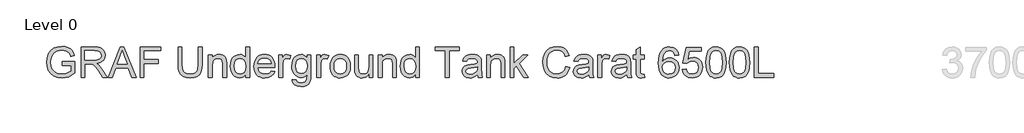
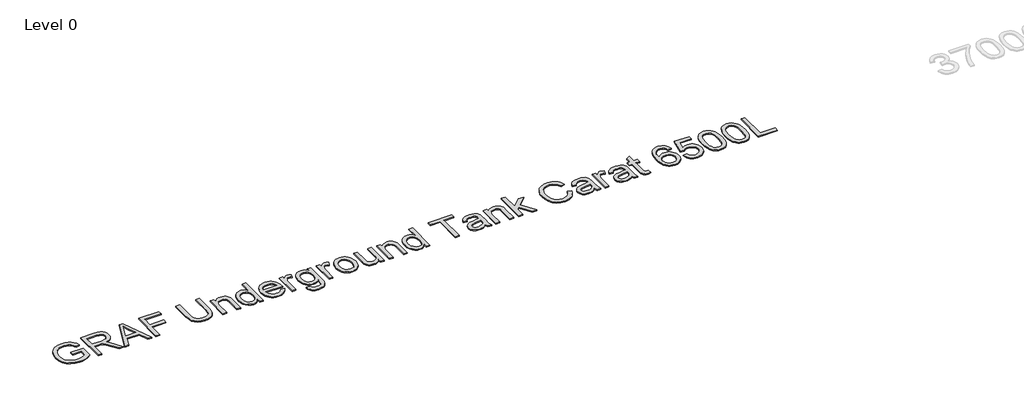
# One storey, part 13 of 19: 1 proxy.
"""IFC4 building model written with IfcOpenShell, lengths in millimetres."""

from ifc_helpers import new_model, si_unit, origin, origin_with_axes, place, context, project, spatial, polyline, outline, extrude, element, save

model = new_model("IFC4")

# Units and contexts
model_context = context("Model", 3, world=origin())
ifc_project = project(units=[si_unit("LENGTHUNIT", "METRE", prefix="MILLI")], contexts=[model_context])

# Site, building, storey
site = spatial("IfcSite", under=ifc_project)
building = spatial("IfcBuilding", under=site)
storey = spatial("IfcBuildingStorey", under=building, Name="Level 0", Elevation=0.0)

# Proxy
placement = place(None, origin())
element("IfcBuildingElementProxy", 1, Name="300mm Arial", ObjectType="300mm Arial", at=placement, inside=storey, context=model_context, shape_type="SweptSolid", body=[
    extrude(outline(polyline([(-14980.9940387, -2583.2545597), (-14980.9940387, -2545.5834434), (-14858.5629107, -2545.5834434), (-14858.5629107, -2658.2289103), (-14888.3153671, -2678.9222726), (-14919.0059225, -2693.7663111), (-14950.5610007, -2702.7058436), (-14982.9070251, -2705.6856877), (-15025.1674693, -2700.949207), (-15063.3628175, -2686.739765), (-15095.0926395, -2663.5540022), (-15117.9565055, -2631.8885595), (-15131.7796715, -2593.9047435), (-15136.3873935, -2551.7638609), (-15131.7980656, -2509.3194757), (-15118.0300819, -2469.8365406), (-15095.6536596, -2436.717964), (-15065.2390156, -2413.3666543), (-15028.1932987, -2399.5158972), (-14985.9236575, -2394.8989782), (-14954.8928112, -2397.5753197), (-14926.9889618, -2405.6043443), (-14903.4904994, -2418.4066377), (-14885.6758138, -2435.4027859), (-14872.4964413, -2457.4113262), (-14862.9039183, -2485.2507962), (-14897.6319786, -2495.0364573), (-14905.3850917, -2475.1800266), (-14914.8120678, -2460.1980323), (-14927.2832674, -2448.9040551), (-14944.169051, -2440.1116754), (-14964.3013932, -2434.4554897), (-14986.5122687, -2432.5700945), (-15012.5123287, -2434.6026425), (-15034.7415982, -2440.7002866), (-15053.1173039, -2450.0996716), (-15067.5566722, -2462.0374423), (-15086.9440533, -2491.0633317), (-15095.7732212, -2519.50061), (-15098.7162772, -2550.2187566), (-15095.175413, -2586.2436009), (-15084.5528204, -2615.8856927), (-15067.1703961, -2638.9334997), (-15043.3500369, -2655.1754898), (-15015.4737787, -2664.804801), (-14985.9236575, -2668.0145714), (-14959.831627, -2665.5957473), (-14934.3833899, -2658.3392749), (-14912.2828791, -2648.3420817), (-14896.234027, -2637.701095), (-14896.234027, -2583.2545597), (-14980.9940387, -2583.2545597)])), origin_with_axes(), (0.0, 0.0, 1.0), 10.0),
    extrude(outline(polyline([(-14797.3473467, -2700.9767982), (-14797.3473467, -2399.6078677), (-14667.4850024, -2399.6078677), (-14632.5821982, -2401.6404158), (-14607.1891434, -2407.7380598), (-14588.6294968, -2418.9952489), (-14574.2269167, -2436.5064318), (-14564.9838815, -2458.2206666), (-14561.9028698, -2482.087011), (-14567.0072325, -2511.7750881), (-14582.3203206, -2536.3863935), (-14593.9200997, -2546.4157764), (-14608.3019865, -2554.4310054), (-14645.4120827, -2564.4190016), (-14624.0013506, -2580.532233), (-14593.467145, -2619.3069952), (-14543.2144645, -2700.9767982), (-14586.9924219, -2700.9767982), (-14626.2086426, -2638.5104354), (-14654.5355562, -2597.1604991), (-14674.4379722, -2577.6259652), (-14692.3538253, -2570.4522663), (-14714.2060158, -2569.1278911), (-14759.6762304, -2569.1278911), (-14759.6762304, -2700.9767982), (-14797.3473467, -2700.9767982)]), holes=[polyline([(-14759.6762304, -2531.4567748), (-14675.3576771, -2531.4567748), (-14651.1418448, -2530.1232026), (-14632.3522719, -2526.1224859), (-14618.2072092, -2519.1879103), (-14607.9249074, -2509.0527613), (-14601.6617165, -2496.7930938), (-14599.5739861, -2483.4849626), (-14603.5563087, -2465.109257), (-14615.5032765, -2450.3020067), (-14636.058683, -2440.5347397), (-14665.8663217, -2437.278984), (-14759.6762304, -2437.278984), (-14759.6762304, -2531.4567748)])]), origin_with_axes(), (0.0, 0.0, 1.0), 10.0),
    extrude(outline(polyline([(-14531.0743586, -2700.9767982), (-14410.7769462, -2399.6078677), (-14378.6976362, -2399.6078677), (-14258.4002238, -2700.9767982), (-14298.2050557, -2700.9767982), (-14332.7123868, -2606.7990074), (-14456.835772, -2606.7990074), (-14491.2695268, -2700.9767982), (-14531.0743586, -2700.9767982)]), holes=[polyline([(-14443.003409, -2569.1278911), (-14346.4711735, -2569.1278911), (-14373.6208647, -2495.0364573), (-14394.7372912, -2437.278984), (-14413.499273, -2488.5617342), (-14443.003409, -2569.1278911)])]), origin_with_axes(), (0.0, 0.0, 1.0), 10.0),
    extrude(outline(polyline([(-14218.1539335, -2700.9767982), (-14218.1539335, -2399.6078677), (-14015.6716834, -2399.6078677), (-14015.6716834, -2437.278984), (-14180.4828172, -2437.278984), (-14180.4828172, -2526.7478853), (-14039.2161311, -2526.7478853), (-14039.2161311, -2564.4190016), (-14180.4828172, -2564.4190016), (-14180.4828172, -2700.9767982), (-14218.1539335, -2700.9767982)])), origin_with_axes(), (0.0, 0.0, 1.0), 10.0),
    extrude(outline(polyline([(-13648.3782994, -2399.6078677), (-13610.7071831, -2399.6078677), (-13610.7071831, -2573.4688986), (-13613.263963, -2614.1842385), (-13620.9343026, -2645.5369815), (-13635.2633063, -2669.7252227), (-13657.7960785, -2688.9470569), (-13688.5878015, -2701.50103), (-13727.6936576, -2705.6856877), (-13765.944188, -2702.043656), (-13796.5243789, -2691.1175607), (-13819.4434272, -2673.284481), (-13834.71053, -2648.9214959), (-13843.2913775, -2616.2443776), (-13846.15166, -2573.4688986), (-13846.15166, -2399.6078677), (-13808.4805437, -2399.6078677), (-13808.4805437, -2572.1445235), (-13806.6227396, -2605.9988641), (-13801.0493274, -2629.5709029), (-13790.9509666, -2645.8956665), (-13775.5183169, -2658.0081811), (-13755.3951718, -2665.5129738), (-13731.2253247, -2668.0145714), (-13692.9104149, -2663.0665586), (-13678.5676156, -2656.8815425), (-13667.4345868, -2648.2225201), (-13659.097461, -2636.045626), (-13653.1423712, -2619.3069952), (-13648.3782994, -2572.1445235), (-13648.3782994, -2399.6078677)])), origin_with_axes(), (0.0, 0.0, 1.0), 10.0),
    extrude(outline(polyline([(-13549.4916191, -2700.9767982), (-13549.4916191, -2479.6589899), (-13511.8205028, -2479.6589899), (-13511.8205028, -2510.5610775), (-13498.7331008, -2494.981275), (-13483.0153426, -2483.8528446), (-13464.6672281, -2477.1757864), (-13443.6887573, -2474.9501003), (-13425.1199136, -2476.7435251), (-13408.1145684, -2482.1237992), (-13393.9327174, -2490.4195382), (-13383.8343567, -2500.9593574), (-13372.5403794, -2528.6608716), (-13370.5538167, -2565.0811892), (-13370.5538167, -2700.9767982), (-13408.224933, -2700.9767982), (-13408.224933, -2570.1579607), (-13412.5659405, -2536.8278519), (-13418.5716141, -2526.9042351), (-13427.9066197, -2519.2063044), (-13439.8719816, -2514.2674886), (-13453.768724, -2512.6212166), (-13475.8324466, -2516.3184307), (-13494.6404136, -2527.4100729), (-13502.1567026, -2536.4645685), (-13507.5254805, -2548.8391991), (-13511.8205028, -2583.5488653), (-13511.8205028, -2700.9767982), (-13549.4916191, -2700.9767982)])), origin_with_axes(), (0.0, 0.0, 1.0), 10.0),
    extrude(outline(polyline([(-13182.1982351, -2700.9767982), (-13182.1982351, -2665.4393974), (-13193.4692197, -2683.0471494), (-13207.1222403, -2695.6241151), (-13223.1572968, -2703.1702946), (-13241.5743891, -2705.6856877), (-13265.9281772, -2702.043656), (-13288.2218261, -2691.1175607), (-13307.0941725, -2673.6707571), (-13321.1840529, -2650.4666002), (-13329.9580385, -2622.4431893), (-13332.8827003, -2590.5386232), (-13330.1879647, -2559.0295303), (-13322.1037579, -2530.573858), (-13308.6392769, -2506.790287), (-13289.8037187, -2489.2974982), (-13267.0226262, -2478.5369498), (-13241.7215419, -2474.9501003), (-13223.290654, -2477.5160773), (-13206.9934816, -2485.214008), (-13193.1795127, -2497.013823), (-13182.1982351, -2511.8854527), (-13182.1982351, -2399.6078677), (-13144.5271188, -2399.6078677), (-13144.5271188, -2700.9767982), (-13182.1982351, -2700.9767982)]), holes=[polyline([(-13295.211584, -2590.3914704), (-13290.962547, -2624.4665402), (-13278.2154359, -2648.7007667), (-13259.6925774, -2663.1861202), (-13238.1162984, -2668.0145714), (-13216.5492164, -2663.4068494), (-13198.4954075, -2649.5836835), (-13186.2725282, -2626.2875561), (-13182.1982351, -2593.26095), (-13186.3461046, -2557.1533322), (-13198.7897131, -2532.1189624), (-13217.3033745, -2517.4956531), (-13239.6614028, -2512.6212166), (-13261.458411, -2517.302515), (-13279.3190818, -2531.3464102), (-13291.2384585, -2555.470272), (-13295.211584, -2590.3914704)])]), origin_with_axes(), (0.0, 0.0, 1.0), 10.0),
    extrude(outline(polyline([(-12933.068548, -2635.0523446), (-12896.1331957, -2639.7612342), (-12909.4413268, -2667.5915071), (-12930.677315, -2688.3952339), (-12959.3629136, -2701.3630743), (-12995.019876, -2705.6856877), (-13018.3941782, -2703.8209859), (-13039.2208977, -2698.2268803), (-13057.5000343, -2688.9033709), (-13073.2315881, -2675.8504579), (-13085.8821303, -2659.4314246), (-13094.9182318, -2640.0095545), (-13100.3398927, -2617.5848477), (-13102.147113, -2592.157304), (-13100.3214986, -2565.8675369), (-13094.8446554, -2542.6955698), (-13085.7165834, -2522.6414025), (-13072.9372826, -2505.7050351), (-13057.2471155, -2492.2497512), (-13039.3864446, -2482.638834), (-13019.35527, -2476.8722838), (-12997.1535915, -2474.9501003), (-12975.6669838, -2476.8676852), (-12956.2359166, -2482.6204399), (-12938.8603901, -2492.2083644), (-12923.5404043, -2505.6314587), (-12911.0347157, -2522.5310379), (-12902.102081, -2542.548417), (-12896.7425002, -2565.6835959), (-12894.9559733, -2591.9365748), (-12895.1767025, -2602.0901179), (-13064.4759967, -2602.0901179), (-13057.9552883, -2630.2882728), (-13042.8077471, -2651.0184232), (-13020.9463596, -2663.7655344), (-12994.284112, -2668.0145714), (-12974.2345432, -2666.0464027), (-12957.3487597, -2660.1418967), (-12943.6267612, -2649.9331713), (-12933.068548, -2635.0523446)]), holes=[polyline([(-13064.4759967, -2564.4190016), (-12932.6270896, -2564.4190016), (-12937.7222552, -2544.5165856), (-12947.7102514, -2530.2795524), (-12969.6728065, -2517.0358006), (-12997.3007443, -2512.6212166), (-13022.6937991, -2516.1436868), (-13043.6906639, -2526.7110971), (-13058.2863821, -2543.1830134), (-13064.4759967, -2564.4190016)])]), origin_with_axes(), (0.0, 0.0, 1.0), 10.0),
    extrude(outline(polyline([(-12857.284857, -2700.9767982), (-12857.284857, -2479.6589899), (-12824.3226302, -2479.6589899), (-12824.3226302, -2512.4004875), (-12812.1457362, -2493.4177765), (-12800.9253353, -2482.2341638), (-12789.6681463, -2476.7711162), (-12777.3808876, -2474.9501003), (-12758.6189059, -2477.8563681), (-12739.5626185, -2486.5751714), (-12752.1441828, -2520.3467385), (-12765.3879346, -2514.5525971), (-12778.6316864, -2512.6212166), (-12789.8796784, -2514.4790207), (-12799.9320539, -2520.052433), (-12808.053049, -2528.918389), (-12813.5068996, -2540.6538247), (-12818.0870304, -2561.6966748), (-12819.6137407, -2584.6525113), (-12819.6137407, -2700.9767982), (-12857.284857, -2700.9767982)])), origin_with_axes(), (0.0, 0.0, 1.0), 10.0),
    extrude(outline(polyline([(-12725.4359499, -2719.8123563), (-12687.7648336, -2724.5212459), (-12683.6077671, -2736.2934697), (-12675.5511514, -2744.3868736), (-12659.7138315, -2750.6776557), (-12638.983681, -2752.7745831), (-12616.8739731, -2750.4017442), (-12600.4296479, -2743.2832276), (-12589.0253061, -2731.8788858), (-12582.0355482, -2716.6485712), (-12579.4603742, -2672.7234609), (-12591.9959532, -2685.084296), (-12605.9846661, -2693.9134639), (-12621.4265128, -2699.2109646), (-12638.3214935, -2700.9767982), (-12658.9757682, -2698.9212575), (-12677.1606351, -2692.7546356), (-12692.8760941, -2682.4769323), (-12706.1221452, -2668.0881478), (-12716.6320739, -2650.8252852), (-12724.1391659, -2631.9253477), (-12728.6434211, -2611.3883353), (-12730.1448394, -2589.214248), (-12727.4501038, -2558.7996041), (-12719.365897, -2530.8313754), (-12706.1773275, -2507.1305779), (-12688.1695038, -2489.5182274), (-12665.9586283, -2478.5921321), (-12640.1609034, -2474.9501003), (-12622.5439544, -2477.0102395), (-12606.5548832, -2483.190657), (-12592.1936898, -2493.4913529), (-12579.4603742, -2507.9123271), (-12579.4603742, -2479.6589899), (-12541.7892579, -2479.6589899), (-12541.7892579, -2670.7368982), (-12544.3644319, -2714.8551464), (-12552.0899538, -2743.908627), (-12565.398085, -2763.1764465), (-12584.7210868, -2777.9377116), (-12609.6358949, -2787.3187024), (-12639.719445, -2790.4456994), (-12674.7694021, -2786.0403125), (-12702.3697488, -2772.8241518), (-12712.7647144, -2762.9028343), (-12720.0740698, -2750.7604292), (-12724.297815, -2736.3969365), (-12725.4359499, -2719.8123563)]), holes=[polyline([(-12692.4737231, -2586.6390741), (-12688.4546123, -2621.1923905), (-12676.39728, -2644.9483703), (-12658.2698946, -2658.716354), (-12636.0406251, -2663.3056819), (-12613.9769024, -2658.7439451), (-12595.7575466, -2645.0587349), (-12583.5346673, -2621.6062577), (-12579.4603742, -2587.7427201), (-12583.654229, -2555.0839959), (-12596.2357932, -2531.5671394), (-12614.7218635, -2517.3576973), (-12636.6292363, -2512.6212166), (-12658.1411359, -2517.2841209), (-12676.1765508, -2531.2728338), (-12688.39943, -2554.4402024), (-12692.4737231, -2586.6390741)])]), origin_with_axes(), (0.0, 0.0, 1.0), 10.0),
    extrude(outline(polyline([(-12485.2825835, -2700.9767982), (-12485.2825835, -2479.6589899), (-12452.3203567, -2479.6589899), (-12452.3203567, -2512.4004875), (-12440.1434626, -2493.4177765), (-12428.9230618, -2482.2341638), (-12417.6658727, -2476.7711162), (-12405.3786141, -2474.9501003), (-12386.6166324, -2477.8563681), (-12367.560345, -2486.5751714), (-12380.1419092, -2520.3467385), (-12393.3856611, -2514.5525971), (-12406.6294129, -2512.6212166), (-12417.8774049, -2514.4790207), (-12427.9297804, -2520.052433), (-12436.0507755, -2528.918389), (-12441.504626, -2540.6538247), (-12446.0847569, -2561.6966748), (-12447.6114672, -2584.6525113), (-12447.6114672, -2700.9767982), (-12485.2825835, -2700.9767982)])), origin_with_axes(), (0.0, 0.0, 1.0), 10.0),
    extrude(outline(polyline([(-12353.4336764, -2590.317894), (-12351.3965298, -2561.6552881), (-12345.2850902, -2536.9566106), (-12335.0993575, -2516.2218617), (-12320.8393316, -2499.4510412), (-12306.4827368, -2488.7318796), (-12290.6362198, -2481.0753356), (-12273.2997808, -2476.4814091), (-12254.4734197, -2474.9501003), (-12233.6903862, -2476.8148022), (-12214.8985141, -2482.4089078), (-12198.0978032, -2491.7324171), (-12183.2882536, -2504.7853302), (-12171.2010308, -2521.1261885), (-12162.5673002, -2540.3135338), (-12157.3870619, -2562.3473661), (-12155.6603158, -2587.2276853), (-12158.7137363, -2625.2850777), (-12167.873998, -2654.2557848), (-12182.8743864, -2675.9516255), (-12203.448187, -2692.1844185), (-12227.8847485, -2702.3103704), (-12254.4734197, -2705.6856877), (-12275.5599558, -2703.8278836), (-12294.5265719, -2698.2544714), (-12311.373268, -2688.965451), (-12326.1000441, -2675.9608225), (-12338.0585082, -2659.461315), (-12346.6002683, -2639.6876578), (-12351.7253244, -2616.6398508), (-12353.4336764, -2590.317894)]), holes=[polyline([(-12315.7625601, -2590.2443176), (-12311.4031584, -2624.3377815), (-12298.3249535, -2648.6271903), (-12278.6432668, -2663.1677261), (-12254.4734197, -2668.0145714), (-12230.4139372, -2663.140135), (-12210.7690387, -2648.5168257), (-12197.6908337, -2623.9055202), (-12193.3314321, -2589.0670952), (-12197.7184249, -2555.9669127), (-12210.8794033, -2532.0085978), (-12230.5518929, -2517.4680619), (-12254.4734197, -2512.6212166), (-12278.6432668, -2517.4496678), (-12298.3249535, -2531.9350214), (-12311.4031584, -2556.1692478), (-12315.7625601, -2590.2443176)])]), origin_with_axes(), (0.0, 0.0, 1.0), 10.0),
    extrude(outline(polyline([(-11972.0136238, -2700.9767982), (-11972.0136238, -2662.9377999), (-11985.6436517, -2681.6400008), (-12001.5177598, -2694.9987158), (-12019.6359481, -2703.0139447), (-12039.9982165, -2705.6856877), (-12058.346331, -2703.8094895), (-12075.4252526, -2698.180895), (-12089.7542563, -2689.7196091), (-12099.8526171, -2679.3453369), (-12111.073018, -2651.6070344), (-12113.2803099, -2616.5846685), (-12113.2803099, -2479.6589899), (-12075.6091936, -2479.6589899), (-12075.6091936, -2598.8527563), (-12073.3283253, -2637.2596366), (-12067.8376865, -2650.0711271), (-12058.4291045, -2659.8108029), (-12045.7279786, -2665.9636293), (-12030.3597082, -2668.0145714), (-12014.1085211, -2665.917644), (-11998.9057976, -2659.6268619), (-11986.3702186, -2649.7216392), (-11978.1204649, -2636.78139), (-11973.5403341, -2619.0586749), (-11972.0136238, -2594.8060544), (-11972.0136238, -2479.6589899), (-11934.3425075, -2479.6589899), (-11934.3425075, -2700.9767982), (-11972.0136238, -2700.9767982)])), origin_with_axes(), (0.0, 0.0, 1.0), 10.0),
    extrude(outline(polyline([(-11882.5447226, -2700.9767982), (-11882.5447226, -2479.6589899), (-11844.8736063, -2479.6589899), (-11844.8736063, -2510.5610775), (-11831.7862043, -2494.981275), (-11816.068446, -2483.8528446), (-11797.7203315, -2477.1757864), (-11776.7418607, -2474.9501003), (-11758.173017, -2476.7435251), (-11741.1676718, -2482.1237992), (-11726.9858209, -2490.4195382), (-11716.8874601, -2500.9593574), (-11705.5934829, -2528.6608716), (-11703.6069201, -2565.0811892), (-11703.6069201, -2700.9767982), (-11741.2780364, -2700.9767982), (-11741.2780364, -2570.1579607), (-11745.619044, -2536.8278519), (-11751.6247175, -2526.9042351), (-11760.9597232, -2519.2063044), (-11772.925085, -2514.2674886), (-11786.8218274, -2512.6212166), (-11808.8855501, -2516.3184307), (-11827.6935171, -2527.4100729), (-11835.2098061, -2536.4645685), (-11840.578584, -2548.8391991), (-11844.8736063, -2583.5488653), (-11844.8736063, -2700.9767982), (-11882.5447226, -2700.9767982)])), origin_with_axes(), (0.0, 0.0, 1.0), 10.0),
    extrude(outline(polyline([(-11515.2513386, -2700.9767982), (-11515.2513386, -2665.4393974), (-11526.5223232, -2683.0471494), (-11540.1753437, -2695.6241151), (-11556.2104002, -2703.1702946), (-11574.6274926, -2705.6856877), (-11598.9812807, -2702.043656), (-11621.2749296, -2691.1175607), (-11640.1472759, -2673.6707571), (-11654.2371564, -2650.4666002), (-11663.0111419, -2622.4431893), (-11665.9358038, -2590.5386232), (-11663.2410682, -2559.0295303), (-11655.1568613, -2530.573858), (-11641.6923803, -2506.790287), (-11622.8568222, -2489.2974982), (-11600.0757296, -2478.5369498), (-11574.7746454, -2474.9501003), (-11556.3437574, -2477.5160773), (-11540.046585, -2485.214008), (-11526.2326161, -2497.013823), (-11515.2513386, -2511.8854527), (-11515.2513386, -2399.6078677), (-11477.5802223, -2399.6078677), (-11477.5802223, -2700.9767982), (-11515.2513386, -2700.9767982)]), holes=[polyline([(-11628.2646875, -2590.3914704), (-11624.0156504, -2624.4665402), (-11611.2685393, -2648.7007667), (-11592.7456809, -2663.1861202), (-11571.1694018, -2668.0145714), (-11549.6023199, -2663.4068494), (-11531.548511, -2649.5836835), (-11519.3256317, -2626.2875561), (-11515.2513386, -2593.26095), (-11519.3992081, -2557.1533322), (-11531.8428166, -2532.1189624), (-11550.356478, -2517.4956531), (-11572.7145062, -2512.6212166), (-11594.5115144, -2517.302515), (-11612.3721853, -2531.3464102), (-11624.2915619, -2555.470272), (-11628.2646875, -2590.3914704)])]), origin_with_axes(), (0.0, 0.0, 1.0), 10.0),
    extrude(outline(polyline([(-11223.3001872, -2700.9767982), (-11223.3001872, -2437.278984), (-11322.1868675, -2437.278984), (-11322.1868675, -2399.6078677), (-11086.7423906, -2399.6078677), (-11086.7423906, -2437.278984), (-11185.6290709, -2437.278984), (-11185.6290709, -2700.9767982), (-11223.3001872, -2700.9767982)])), origin_with_axes(), (0.0, 0.0, 1.0), 10.0),
    extrude(outline(polyline([(-10907.8045881, -2672.7234609), (-10925.8032148, -2688.1561106), (-10944.3352703, -2698.2544714), (-10963.823819, -2703.8278836), (-10984.6919251, -2705.6856877), (-11016.1734269, -2701.2159215), (-11039.3959778, -2687.8066228), (-11053.7157845, -2667.4443543), (-11058.4890534, -2642.1156789), (-11056.6864316, -2626.4990883), (-11051.2785663, -2612.3172373), (-11042.936842, -2600.1771315), (-11032.3326435, -2590.685776), (-11005.9555045, -2578.324941), (-10973.3611597, -2572.6595583), (-10934.8439148, -2566.6998699), (-10908.0253173, -2559.710112), (-10907.8045881, -2551.3224025), (-10910.3981562, -2534.5101954), (-10918.1788604, -2523.5105237), (-10935.5796788, -2515.3435434), (-10959.8231023, -2512.6212166), (-10982.263904, -2514.4330355), (-10997.935677, -2519.868492), (-11008.6226489, -2529.9208675), (-11016.1090475, -2545.5834434), (-11053.7801638, -2540.8745539), (-11047.2410614, -2520.2731621), (-11037.4829914, -2504.0863544), (-11023.5954461, -2491.7071252), (-11004.6679175, -2482.5284694), (-10981.5189429, -2476.8446926), (-10954.9670599, -2474.9501003), (-10929.5004288, -2476.6239634), (-10909.3129043, -2481.6455527), (-10894.0917868, -2489.1963306), (-10883.5243765, -2498.4577598), (-10876.5162244, -2509.9080869), (-10871.9728818, -2524.0255585), (-10870.1334718, -2556.9877853), (-10870.1334718, -2603.8559515), (-10868.2204855, -2669.3021584), (-10860.7156928, -2700.9767982), (-10898.3868091, -2700.9767982), (-10907.8045881, -2672.7234609)]), holes=[polyline([(-10907.8045881, -2597.3812283), (-10968.5786937, -2608.932723), (-11000.9890975, -2615.0395641), (-11015.6675891, -2624.972378), (-11020.8179371, -2639.4669286), (-11018.0128368, -2650.6689353), (-11009.5975362, -2659.8475911), (-10995.7559761, -2665.9728263), (-10976.6720976, -2668.0145714), (-10956.4385879, -2665.7612942), (-10938.5595229, -2659.0014625), (-10924.0649723, -2649.0410575), (-10913.9850057, -2637.1860602), (-10909.5152394, -2624.972378), (-10908.0253173, -2608.0498062), (-10907.8045881, -2597.3812283)])]), origin_with_axes(), (0.0, 0.0, 1.0), 10.0),
    extrude(outline(polyline([(-10818.3356869, -2700.9767982), (-10818.3356869, -2479.6589899), (-10780.6645706, -2479.6589899), (-10780.6645706, -2510.5610775), (-10767.5771686, -2494.981275), (-10751.8594104, -2483.8528446), (-10733.5112959, -2477.1757864), (-10712.5328251, -2474.9501003), (-10693.9639814, -2476.7435251), (-10676.9586362, -2482.1237992), (-10662.7767853, -2490.4195382), (-10652.6784245, -2500.9593574), (-10641.3844472, -2528.6608716), (-10639.3978845, -2565.0811892), (-10639.3978845, -2700.9767982), (-10677.0690008, -2700.9767982), (-10677.0690008, -2570.1579607), (-10681.4100083, -2536.8278519), (-10687.4156819, -2526.9042351), (-10696.7506875, -2519.2063044), (-10708.7160494, -2514.2674886), (-10722.6127918, -2512.6212166), (-10744.6765144, -2516.3184307), (-10763.4844814, -2527.4100729), (-10771.0007704, -2536.4645685), (-10776.3695483, -2548.8391991), (-10780.6645706, -2583.5488653), (-10780.6645706, -2700.9767982), (-10818.3356869, -2700.9767982)])), origin_with_axes(), (0.0, 0.0, 1.0), 10.0),
    extrude(outline(polyline([(-10587.6000995, -2700.9767982), (-10587.6000995, -2399.6078677), (-10549.9289832, -2399.6078677), (-10549.9289832, -2561.549522), (-10465.4632771, -2479.6589899), (-10413.3711866, -2479.6589899), (-10498.8669623, -2562.5795916), (-10408.6622971, -2700.9767982), (-10452.6609837, -2700.9767982), (-10525.8695007, -2588.7727896), (-10549.9289832, -2612.0965081), (-10549.9289832, -2700.9767982), (-10587.6000995, -2700.9767982)])), origin_with_axes(), (0.0, 0.0, 1.0), 10.0),
    extrude(outline(polyline([(-10041.3689131, -2593.8495612), (-10003.6977968, -2603.5616459), (-10011.1520057, -2626.9888312), (-10021.0802211, -2647.4591649), (-10033.4824428, -2664.9726472), (-10048.358671, -2679.5292779), (-10065.3732133, -2690.9727072), (-10084.1903773, -2699.1465853), (-10104.8101632, -2704.0509121), (-10127.2325708, -2705.6856877), (-10170.9277547, -2700.7376749), (-10205.6282239, -2685.8936364), (-10232.2260922, -2661.668607), (-10251.6134733, -2628.5776215), (-10263.4500765, -2589.6741005), (-10267.3956109, -2548.0114646), (-10262.9350417, -2504.0679603), (-10249.5533342, -2466.1209325), (-10227.949464, -2435.3751947), (-10198.822407, -2413.0355606), (-10164.2782877, -2399.4331238), (-10126.4232304, -2394.8989782), (-10085.1192794, -2400.766696), (-10067.1505432, -2408.1013433), (-10050.9706332, -2418.3698495), (-10036.8462638, -2431.3009016), (-10025.0441496, -2446.6231867), (-10008.4066863, -2484.4414558), (-10046.0778026, -2493.4177765), (-10059.1376135, -2465.9461885), (-10076.9798902, -2447.1014333), (-10099.8253621, -2436.2029292), (-10127.8947584, -2432.5700945), (-10160.2499798, -2436.5984023), (-10186.829454, -2448.6833259), (-10206.9985844, -2467.5556722), (-10220.1227746, -2491.9462485), (-10227.3240646, -2519.5190041), (-10229.7244946, -2547.9378882), (-10226.8826062, -2582.7395249), (-10218.356941, -2612.8322721), (-10203.8256022, -2637.0664986), (-10182.966693, -2654.292573), (-10157.9599144, -2664.5840718), (-10130.9849671, -2668.0145714), (-10099.5402536, -2663.3424701), (-10073.3378585, -2649.3261661), (-10053.5550042, -2626.1128122), (-10041.3689131, -2593.8495612)])), origin_with_axes(), (0.0, 0.0, 1.0), 10.0),
    extrude(outline(polyline([(-9815.3422153, -2672.7234609), (-9833.3408419, -2688.1561106), (-9851.8728974, -2698.2544714), (-9871.3614461, -2703.8278836), (-9892.2295523, -2705.6856877), (-9923.711054, -2701.2159215), (-9946.9336049, -2687.8066228), (-9961.2534116, -2667.4443543), (-9966.0266805, -2642.1156789), (-9964.2240587, -2626.4990883), (-9958.8161934, -2612.3172373), (-9950.4744691, -2600.1771315), (-9939.8702706, -2590.685776), (-9913.4931316, -2578.324941), (-9880.8987868, -2572.6595583), (-9842.3815419, -2566.6998699), (-9815.5629445, -2559.710112), (-9815.3422153, -2551.3224025), (-9817.9357833, -2534.5101954), (-9825.7164875, -2523.5105237), (-9843.1173059, -2515.3435434), (-9867.3607294, -2512.6212166), (-9889.8015311, -2514.4330355), (-9905.4733041, -2519.868492), (-9916.160276, -2529.9208675), (-9923.6466746, -2545.5834434), (-9961.3177909, -2540.8745539), (-9954.7786885, -2520.2731621), (-9945.0206186, -2504.0863544), (-9931.1330732, -2491.7071252), (-9912.2055446, -2482.5284694), (-9889.05657, -2476.8446926), (-9862.504687, -2474.9501003), (-9837.0380559, -2476.6239634), (-9816.8505314, -2481.6455527), (-9801.6294139, -2489.1963306), (-9791.0620036, -2498.4577598), (-9784.0538516, -2509.9080869), (-9779.5105089, -2524.0255585), (-9777.671099, -2556.9877853), (-9777.671099, -2603.8559515), (-9775.7581126, -2669.3021584), (-9768.2533199, -2700.9767982), (-9805.9244362, -2700.9767982), (-9815.3422153, -2672.7234609)]), holes=[polyline([(-9815.3422153, -2597.3812283), (-9876.1163209, -2608.932723), (-9908.5267246, -2615.0395641), (-9923.2052162, -2624.972378), (-9928.3555642, -2639.4669286), (-9925.550464, -2650.6689353), (-9917.1351633, -2659.8475911), (-9903.2936033, -2665.9728263), (-9884.2097248, -2668.0145714), (-9863.976215, -2665.7612942), (-9846.0971501, -2659.0014625), (-9831.6025994, -2649.0410575), (-9821.5226328, -2637.1860602), (-9817.0528665, -2624.972378), (-9815.5629445, -2608.0498062), (-9815.3422153, -2597.3812283)])]), origin_with_axes(), (0.0, 0.0, 1.0), 10.0),
    extrude(outline(polyline([(-9725.873314, -2700.9767982), (-9725.873314, -2479.6589899), (-9692.9110873, -2479.6589899), (-9692.9110873, -2512.4004875), (-9680.7341932, -2493.4177765), (-9669.5137924, -2482.2341638), (-9658.2566033, -2476.7711162), (-9645.9693447, -2474.9501003), (-9627.2073629, -2477.8563681), (-9608.1510756, -2486.5751714), (-9620.7326398, -2520.3467385), (-9633.9763916, -2514.5525971), (-9647.2201435, -2512.6212166), (-9658.4681355, -2514.4790207), (-9668.520511, -2520.052433), (-9676.641506, -2528.918389), (-9682.0953566, -2540.6538247), (-9686.6754874, -2561.6966748), (-9688.2021977, -2584.6525113), (-9688.2021977, -2700.9767982), (-9725.873314, -2700.9767982)])), origin_with_axes(), (0.0, 0.0, 1.0), 10.0),
    extrude(outline(polyline([(-9443.3399417, -2672.7234609), (-9461.3385684, -2688.1561106), (-9479.8706239, -2698.2544714), (-9499.3591726, -2703.8278836), (-9520.2272787, -2705.6856877), (-9551.7087805, -2701.2159215), (-9574.9313314, -2687.8066228), (-9589.2511381, -2667.4443543), (-9594.024407, -2642.1156789), (-9592.2217852, -2626.4990883), (-9586.8139199, -2612.3172373), (-9578.4721956, -2600.1771315), (-9567.8679971, -2590.685776), (-9541.4908581, -2578.324941), (-9508.8965133, -2572.6595583), (-9470.3792684, -2566.6998699), (-9443.5606709, -2559.710112), (-9443.3399417, -2551.3224025), (-9445.9335098, -2534.5101954), (-9453.714214, -2523.5105237), (-9471.1150324, -2515.3435434), (-9495.3584559, -2512.6212166), (-9517.7992576, -2514.4330355), (-9533.4710306, -2519.868492), (-9544.1580025, -2529.9208675), (-9551.6444011, -2545.5834434), (-9589.3155174, -2540.8745539), (-9582.776415, -2520.2731621), (-9573.018345, -2504.0863544), (-9559.1307997, -2491.7071252), (-9540.2032711, -2482.5284694), (-9517.0542965, -2476.8446926), (-9490.5024135, -2474.9501003), (-9465.0357824, -2476.6239634), (-9444.8482579, -2481.6455527), (-9429.6271404, -2489.1963306), (-9419.0597301, -2498.4577598), (-9412.051578, -2509.9080869), (-9407.5082354, -2524.0255585), (-9405.6688254, -2556.9877853), (-9405.6688254, -2603.8559515), (-9403.7558391, -2669.3021584), (-9396.2510464, -2700.9767982), (-9433.9221627, -2700.9767982), (-9443.3399417, -2672.7234609)]), holes=[polyline([(-9443.3399417, -2597.3812283), (-9504.1140473, -2608.932723), (-9536.5244511, -2615.0395641), (-9551.2029427, -2624.972378), (-9556.3532907, -2639.4669286), (-9553.5481904, -2650.6689353), (-9545.1328898, -2659.8475911), (-9531.2913297, -2665.9728263), (-9512.2074512, -2668.0145714), (-9491.9739415, -2665.7612942), (-9474.0948765, -2659.0014625), (-9459.6003259, -2649.0410575), (-9449.5203593, -2637.1860602), (-9445.050593, -2624.972378), (-9443.5606709, -2608.0498062), (-9443.3399417, -2597.3812283)])]), origin_with_axes(), (0.0, 0.0, 1.0), 10.0),
    extrude(outline(polyline([(-9273.8199184, -2669.5596758), (-9269.1110288, -2702.0804442), (-9297.2907897, -2705.6856877), (-9315.3721897, -2704.1221892), (-9328.8550648, -2699.4316938), (-9338.3832085, -2692.2028126), (-9344.6004142, -2683.0241568), (-9348.0217168, -2667.2604133), (-9349.162151, -2640.276269), (-9349.162151, -2517.3301062), (-9377.4154882, -2517.3301062), (-9377.4154882, -2479.6589899), (-9349.162151, -2479.6589899), (-9349.162151, -2425.8746422), (-9311.4910347, -2403.7281461), (-9311.4910347, -2479.6589899), (-9273.8199184, -2479.6589899), (-9273.8199184, -2517.3301062), (-9311.4910347, -2517.3301062), (-9311.4910347, -2639.172623), (-9309.5044719, -2658.5967923), (-9303.066537, -2665.4761856), (-9290.2274553, -2668.0145714), (-9273.8199184, -2669.5596758)])), origin_with_axes(), (0.0, 0.0, 1.0), 10.0),
    extrude(outline(polyline([(-8934.7798716, -2479.6589899), (-8972.4509879, -2484.3678794), (-8978.5210408, -2465.6978682), (-8986.7248093, -2452.950757), (-9003.812928, -2441.1969273), (-9024.469502, -2437.278984), (-9041.980685, -2439.5598524), (-9058.4617984, -2446.4024575), (-9072.6160581, -2460.8142347), (-9084.1767498, -2480.6522713), (-9091.9850452, -2508.7124704), (-9094.8821159, -2547.7907354), (-9079.771363, -2530.1599908), (-9061.6623717, -2517.7347764), (-9041.5668178, -2510.3679394), (-9020.4963765, -2507.9123271), (-9002.3965823, -2509.5907887), (-8985.6947397, -2514.6261735), (-8970.3908487, -2523.0184815), (-8956.4849093, -2534.7677128), (-8944.9288161, -2549.1748914), (-8936.6744639, -2565.5410417), (-8931.7218525, -2583.8661635), (-8930.0709821, -2604.150257), (-8933.1795849, -2631.1252043), (-8942.5053935, -2656.131983), (-8957.2758556, -2677.34038), (-8976.7184191, -2692.9201825), (-8999.9501671, -2702.4943114), (-9026.0881828, -2705.6856877), (-9048.5450794, -2703.5703662), (-9068.8268736, -2697.2244018), (-9086.9335655, -2686.6477945), (-9102.8651552, -2671.8405442), (-9115.8536889, -2652.1772515), (-9125.131213, -2627.0325171), (-9130.6977274, -2596.406341), (-9132.5532322, -2560.2987232), (-9130.493093, -2519.8179082), (-9124.3126755, -2485.2691903), (-9114.0119797, -2456.6525696), (-9099.5910054, -2433.9680461), (-9083.9606192, -2418.9354681), (-9065.8378324, -2408.1979123), (-9045.2226451, -2401.7553789), (-9022.1150573, -2399.6078677), (-8989.06086, -2404.9237626), (-8962.5917504, -2420.8714471), (-8944.0504979, -2446.2001224), (-8934.7798716, -2479.6589899)]), holes=[polyline([(-9094.8821159, -2603.5616459), (-9092.7024151, -2620.2542914), (-9086.1633126, -2636.1927788), (-9076.0097696, -2649.8963831), (-9062.9867469, -2659.8843793), (-9047.2689887, -2665.9820234), (-9029.0312388, -2668.0145714), (-9004.1716129, -2663.8023226), (-8984.627882, -2651.165576), (-8971.9635443, -2631.2999483), (-8967.7420984, -2605.4010558), (-8971.908362, -2580.54143), (-8984.4071528, -2561.5863102), (-9004.2819775, -2549.5841601), (-9030.5763432, -2545.5834434), (-9055.3991808, -2549.5841601), (-9076.1569224, -2561.5863102), (-9090.2008175, -2580.0815775), (-9094.8821159, -2603.5616459)])]), origin_with_axes(), (0.0, 0.0, 1.0), 10.0),
    extrude(outline(polyline([(-8897.1087553, -2620.925676), (-8859.437639, -2616.2167865), (-8852.5214575, -2638.8323321), (-8840.454928, -2655.028337), (-8823.293233, -2664.7680128), (-8801.0915546, -2668.0145714), (-8774.0890161, -2663.4988199), (-8753.8555064, -2649.9515654), (-8741.2187598, -2628.9363065), (-8737.006511, -2602.0165415), (-8740.9520454, -2576.669472), (-8752.7886486, -2557.2820909), (-8772.6082911, -2544.9764381), (-8800.5029434, -2540.8745539), (-8818.7774815, -2542.5116288), (-8833.5755347, -2547.4228534), (-8854.7287495, -2564.4190016), (-8892.3998658, -2559.710112), (-8859.437639, -2404.3167573), (-8713.4620633, -2404.3167573), (-8713.4620633, -2441.9878736), (-8828.9770098, -2441.9878736), (-8845.0902412, -2524.9820517), (-8818.1796732, -2508.6480911), (-8789.9815183, -2503.2034376), (-8771.6357031, -2504.8910962), (-8754.7844084, -2509.9540722), (-8739.4276344, -2518.3923654), (-8725.5653809, -2530.205976), (-8714.089762, -2544.6729355), (-8705.8928913, -2561.0712754), (-8700.9747688, -2579.4009958), (-8699.3353947, -2599.6620967), (-8705.2399007, -2637.333213), (-8712.6205332, -2654.1270261), (-8722.9534188, -2669.5596758), (-8738.6067977, -2685.364806), (-8756.8721387, -2696.6541847), (-8777.749442, -2703.427812), (-8801.2387074, -2705.6856877), (-8838.238439, -2699.8823492), (-8853.9171098, -2692.6281762), (-8867.7149839, -2682.4723338), (-8879.1952014, -2669.92066), (-8887.9209025, -2655.4789924), (-8897.1087553, -2620.925676)])), origin_with_axes(), (0.0, 0.0, 1.0), 10.0),
    extrude(outline(polyline([(-8666.3731679, -2552.7203541), (-8663.6048559, -2504.4818275), (-8655.2999199, -2466.0105679), (-8641.5411333, -2436.717964), (-8622.4112695, -2416.0154047), (-8597.7723729, -2403.709752), (-8567.4864876, -2399.6078677), (-8544.2731337, -2402.0358889), (-8523.487801, -2409.3199524), (-8506.1053767, -2421.1749497), (-8493.1007482, -2437.3157722), (-8483.2782989, -2457.6044643), (-8475.4424124, -2481.9030701), (-8470.3104586, -2512.7591724), (-8468.5998073, -2552.7203541), (-8471.3405282, -2600.6829692), (-8479.5626908, -2639.0622584), (-8493.2387039, -2668.3824534), (-8512.3409765, -2689.1677861), (-8537.0350555, -2701.5562123), (-8567.4864876, -2705.6856877), (-8588.2350321, -2703.892263), (-8606.6291319, -2698.5119888), (-8622.6687869, -2689.5448652), (-8636.3539971, -2676.9908921), (-8649.4873843, -2654.2971715), (-8658.8683752, -2626.0208417), (-8664.4969697, -2592.1619025), (-8666.3731679, -2552.7203541)]), holes=[polyline([(-8628.7020516, -2552.6467777), (-8624.2874677, -2611.9033701), (-8618.7692377, -2632.1713688), (-8611.0437159, -2646.1991691), (-8591.3252409, -2662.5607208), (-8567.4864876, -2668.0145714), (-8543.6477343, -2662.5423267), (-8523.9292594, -2646.1255927), (-8516.2037375, -2632.0747997), (-8510.6855076, -2611.8113996), (-8506.2709236, -2552.6467777), (-8510.5383548, -2494.7237576), (-8515.8726437, -2474.5224375), (-8523.3406482, -2460.1612441), (-8543.0223349, -2442.9995491), (-8567.927946, -2437.278984), (-8591.5091819, -2442.3189674), (-8610.4551047, -2457.4389174), (-8618.438144, -2473.0739022), (-8624.1403149, -2494.1535405), (-8628.7020516, -2552.6467777)])]), origin_with_axes(), (0.0, 0.0, 1.0), 10.0),
    extrude(outline(polyline([(-8435.6375806, -2552.7203541), (-8432.8692685, -2504.4818275), (-8424.5643325, -2466.0105679), (-8410.8055459, -2436.717964), (-8391.6756821, -2416.0154047), (-8367.0367855, -2403.709752), (-8336.7509002, -2399.6078677), (-8313.5375464, -2402.0358889), (-8292.7522136, -2409.3199524), (-8275.3697894, -2421.1749497), (-8262.3651608, -2437.3157722), (-8252.5427116, -2457.6044643), (-8244.7068251, -2481.9030701), (-8239.5748712, -2512.7591724), (-8237.8642199, -2552.7203541), (-8240.6049408, -2600.6829692), (-8248.8271034, -2639.0622584), (-8262.5031166, -2668.3824534), (-8281.6053892, -2689.1677861), (-8306.2994681, -2701.5562123), (-8336.7509002, -2705.6856877), (-8357.4994448, -2703.892263), (-8375.8935445, -2698.5119888), (-8391.9331995, -2689.5448652), (-8405.6184097, -2676.9908921), (-8418.751797, -2654.2971715), (-8428.1327878, -2626.0208417), (-8433.7613824, -2592.1619025), (-8435.6375806, -2552.7203541)]), holes=[polyline([(-8397.9664642, -2552.6467777), (-8393.5518803, -2611.9033701), (-8388.0336504, -2632.1713688), (-8380.3081285, -2646.1991691), (-8360.5896535, -2662.5607208), (-8336.7509002, -2668.0145714), (-8312.912147, -2662.5423267), (-8293.193672, -2646.1255927), (-8285.4681501, -2632.0747997), (-8279.9499202, -2611.8113996), (-8275.5353362, -2552.6467777), (-8279.8027674, -2494.7237576), (-8285.1370563, -2474.5224375), (-8292.6050608, -2460.1612441), (-8312.2867476, -2442.9995491), (-8337.1923586, -2437.278984), (-8360.7735945, -2442.3189674), (-8379.7195173, -2457.4389174), (-8387.7025566, -2473.0739022), (-8393.4047275, -2494.1535405), (-8397.9664642, -2552.6467777)])]), origin_with_axes(), (0.0, 0.0, 1.0), 10.0),
    extrude(outline(polyline([(-8190.7753246, -2700.9767982), (-8190.7753246, -2399.6078677), (-8153.1042083, -2399.6078677), (-8153.1042083, -2663.3056819), (-8002.419743, -2663.3056819), (-8002.419743, -2700.9767982), (-8190.7753246, -2700.9767982)])), origin_with_axes(), (0.0, 0.0, 1.0), 10.0),
])

save(model, "model.ifc")
